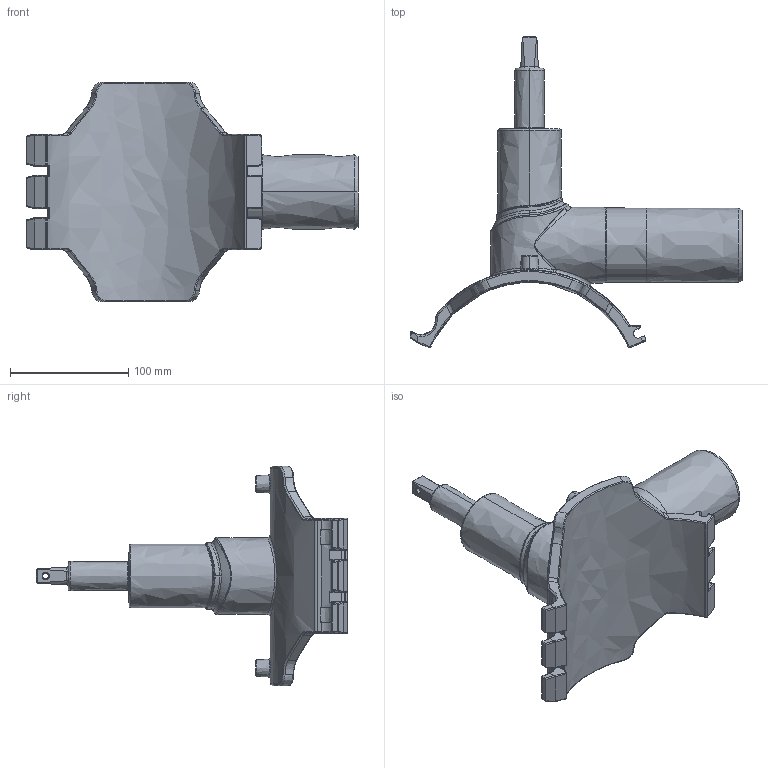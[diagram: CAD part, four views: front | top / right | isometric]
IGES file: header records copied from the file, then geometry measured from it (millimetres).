
Start section:  PTC IGES file: dav2_d180_63_01.igs
Global section: file name: dav2_d180_63_01.igs; native system: Creo Parametric by PTC Inc.; preprocessor: 2019030; author: demmerls; organization: Unknown; date: 20201127.102452; units: millimetre
Bounding box: 281.3 x 263.95 x 186 mm (x, y, z)
Surface area: 149110.1 mm2 (no closed solid volume)
Topology: 0 solids, 0 shells, 572 faces, 2784 edges, 2778 vertices
Faces by surface type: bspline 572
